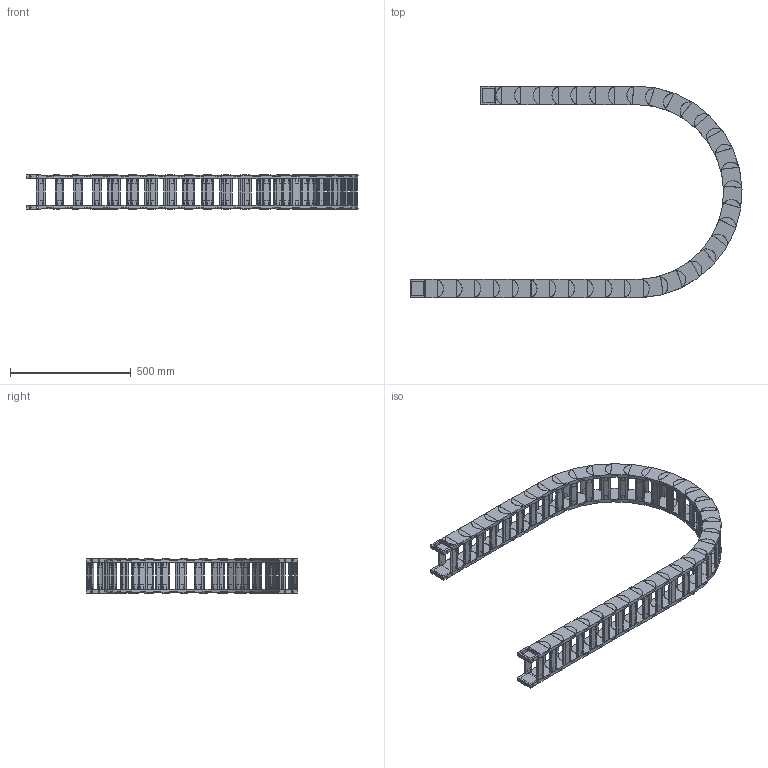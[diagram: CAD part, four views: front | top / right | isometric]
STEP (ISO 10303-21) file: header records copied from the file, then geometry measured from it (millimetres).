
FILE_DESCRIPTION((''),'2;1');
FILE_NAME('HD55-R400-ZPT_ASM','2022-07-25T17:16:00',('admin'),(''),'CREO PARAMETRIC BY PTC INC, 2021164','CREO PARAMETRIC BY PTC INC, 2021164','');
FILE_SCHEMA(('CONFIG_CONTROL_DESIGN','GEOMETRIC_VALIDATION_PROPERTIES_MIM'));
Length unit declared in the file: millimetre
Products named in the file (6): HD-55; 55-500001; HD55_ASM; H55-T1; H55-T2; HD55-R400-ZPT_ASM
Assembly tree (40 placements, depth 3):
  HD55-R400-ZPT_ASM
    HD55_ASM  x34
      HD-55
      55-500001
    H55-T1
    H55-T2
    55-500001  x2
Bounding box: 1373.89 x 875.66 x 142.5 mm (x, y, z)
Volume: 8723208 mm3; surface area: 2703258.9 mm2
Topology: 144 solids, 144 shells, 2366 faces, 6070 edges, 4140 vertices
Faces by surface type: plane 1964, cylinder 402
Entity records: 8903 total; most frequent: CARTESIAN_POINT 1316, DIRECTION 1278, ORIENTED_EDGE 1172, EDGE_CURVE 586, AXIS2_PLACEMENT_3D 430, VECTOR 418, LINE 418, VERTEX_POINT 396
